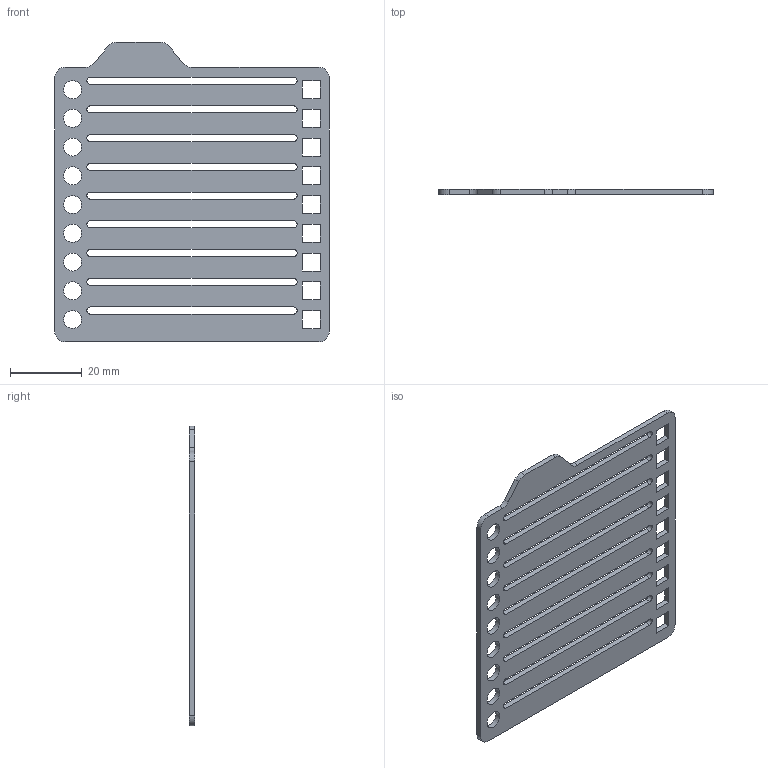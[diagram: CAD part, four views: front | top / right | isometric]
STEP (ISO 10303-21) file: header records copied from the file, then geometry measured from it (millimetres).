
FILE_DESCRIPTION(/* description */ (''),/* implementation_level */ '2;1');
FILE_NAME(/* name */ 'List Planner.step',/* time_stamp */ '2025-08-10T15:21:47+08:00',/* author */ (''),/* organization */ (''),/* preprocessor_version */ 'ST-DEVELOPER v20.1',/* originating_system */ 'Autodesk Translation Framework v14.10.0.0',/* authorisation */ '');
FILE_SCHEMA (('AUTOMOTIVE_DESIGN { 1 0 10303 214 3 1 1 }'));
Length unit declared in the file: millimetre
Products named in the file (1): Sticky note holder with stencils
Bounding box: 76.5 x 1.5 x 83.5 mm (x, y, z)
Volume: 6820.7 mm3; surface area: 11646.4 mm2
Topology: 1 solids, 1 shells, 99 faces, 291 edges, 194 vertices
Faces by surface type: plane 64, cylinder 35
Full cylindrical faces by diameter (mm): 5 x9
Entity records: 3450 total; most frequent: CARTESIAN_POINT 585, ORIENTED_EDGE 582, DIRECTION 561, EDGE_CURVE 291, LINE 221, VECTOR 221, VERTEX_POINT 194, AXIS2_PLACEMENT_3D 170
